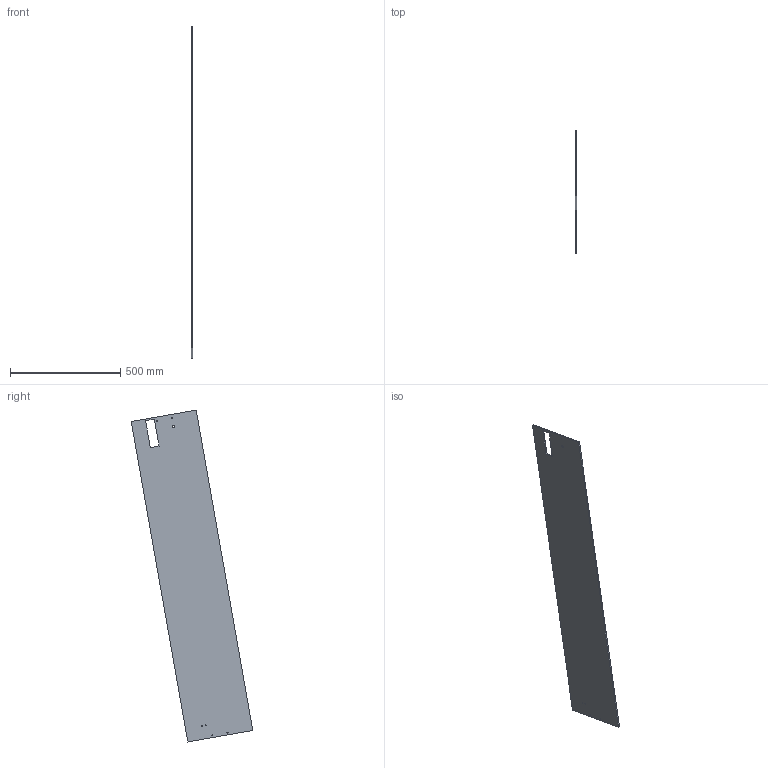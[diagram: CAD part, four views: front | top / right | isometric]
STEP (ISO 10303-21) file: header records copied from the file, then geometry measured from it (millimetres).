
FILE_DESCRIPTION(('golf model'),'2;1');
FILE_NAME('golf','',(''),(''),'golf_step_io','golf','');
FILE_SCHEMA(('AUTOMOTIVE_DESIGN { 1 0 10303 214 1 1 1 1 }'));
Length unit declared in the file: millimetre
Products named in the file (2): ASSEMBLY; gantry_frame.web_px
Assembly tree (1 placements, depth 2):
  ASSEMBLY
    gantry_frame.web_px
Bounding box: 6 x 552.09 x 1507.64 mm (x, y, z)
Volume: 2629620.8 mm3; surface area: 900549.2 mm2
Topology: 1 solids, 1 shells, 17 faces, 45 edges, 30 vertices
Faces by surface type: plane 10, cylinder 7
Full cylindrical faces by diameter (mm): 4.2 x2, 5 x4, 9 x1
Entity records: 564 total; most frequent: DIRECTION 90, CARTESIAN_POINT 87, ORIENTED_EDGE 76, EDGE_LOOP 40, EDGE_CURVE 38, FACE_BOUND 38, AXIS2_PLACEMENT_3D 33, VERTEX_POINT 30
